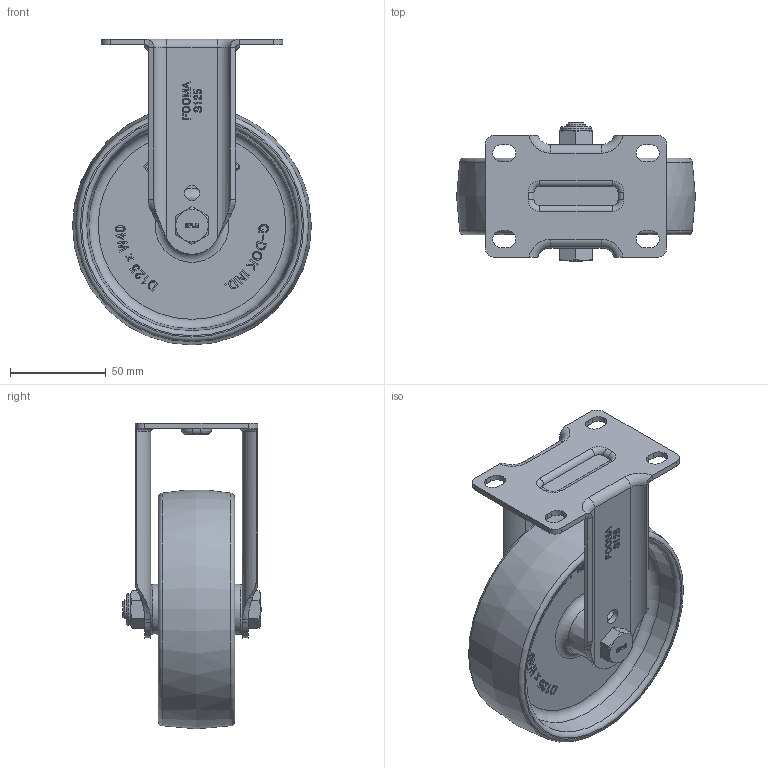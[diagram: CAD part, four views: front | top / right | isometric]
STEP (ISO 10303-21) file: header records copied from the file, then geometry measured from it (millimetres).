
FILE_DESCRIPTION(/* description */ (''),/* implementation_level */ '2;1');
FILE_NAME(/* name */ '\\192.168.10.38\지덕공유\1.기술연구소\2.연구개발 완료\완료_98.스테인레스캐스터 개발건_2023.10.26\제품설계\3D\홈페이지용\NYP\SPLM-125-ARF-NYP.step',/* time_stamp */ '2025-07-11T17:23:05+09:00',/* author */ ('admin'),/* organization */ ('지덕산업'),/* preprocessor_version */ 'ST-DEVELOPER v18.1',/* originating_system */ 'Autodesk Inventor 2021',/* authorisation */ '');
FILE_SCHEMA (('AUTOMOTIVE_DESIGN { 1 0 10303 214 3 1 1 }'));
Length unit declared in the file: millimetre
Products named in the file (1): SPLM-125-ARF-NYP
Bounding box: 125 x 72.3 x 160 mm (x, y, z)
Volume: 256724.2 mm3; surface area: 80947.4 mm2
Topology: 1 solids, 1 shells, 876 faces, 2362 edges, 1559 vertices
Faces by surface type: plane 430, bspline 360, cylinder 39, torus 24, cone 23
Full cylindrical faces by diameter (mm): 8 x2, 10 x1, 11 x1, 16.5 x1
Entity records: 28311 total; most frequent: CARTESIAN_POINT 8665, ORIENTED_EDGE 4724, DIRECTION 2822, EDGE_CURVE 2362, VERTEX_POINT 1559, LINE 1456, VECTOR 1456, EDGE_LOOP 961
